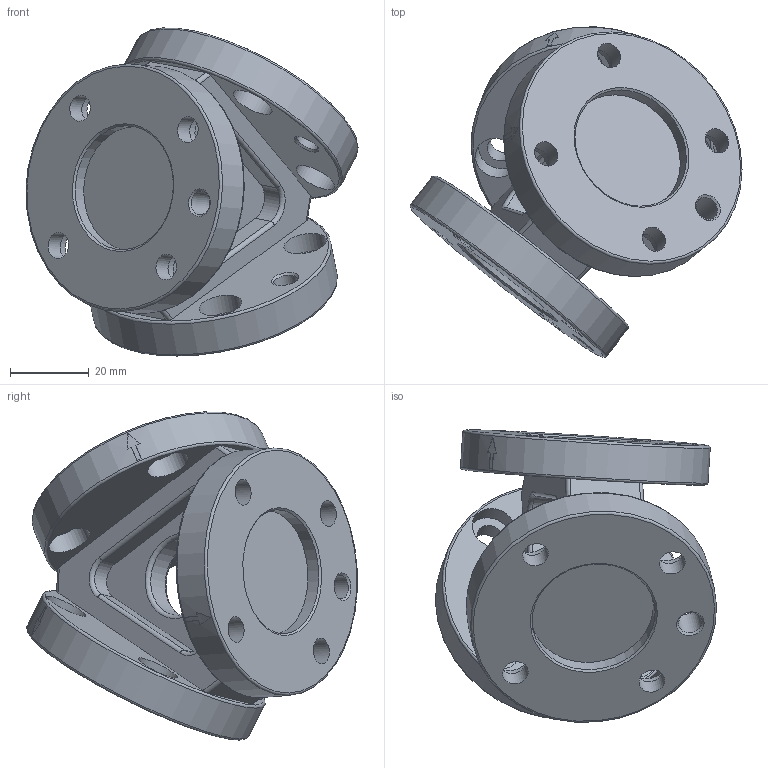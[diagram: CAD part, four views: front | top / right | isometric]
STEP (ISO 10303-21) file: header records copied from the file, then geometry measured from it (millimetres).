
FILE_DESCRIPTION(/* description */ (''),/* implementation_level */ '2;1');
FILE_NAME(/* name */ 'T:\CAD\Standard\Daten\3D-Datenbank\G-YA\G-YA063-S3.stp',/* time_stamp */ '2020-05-29T17:29:18+02:00',/* author */ ('hcanti'),/* organization */ (''),/* preprocessor_version */ 'ST-DEVELOPER v17',/* originating_system */ 'Autodesk Inventor 2018',/* authorisation */ '');
FILE_SCHEMA (('AUTOMOTIVE_DESIGN { 1 0 10303 214 3 1 1 }'));
Length unit declared in the file: millimetre
Products named in the file (4): Baugruppe21; XG-YA063-S3; G-YA063-S0-01 Y-Adapter 3-Eck; G-YA063-S0-03 Y-Adapter Flansch (Senkungen)
Assembly tree (5 placements, depth 3):
  Baugruppe21
    XG-YA063-S3
      G-YA063-S0-01 Y-Adapter 3-Eck
      G-YA063-S0-03 Y-Adapter Flansch (Senkungen)  x3
Bounding box: 84.32 x 83.93 x 83.33 mm (x, y, z)
Volume: 101608.2 mm3; surface area: 37426.7 mm2
Topology: 4 solids, 4 shells, 136 faces, 330 edges, 222 vertices
Faces by surface type: plane 58, cylinder 55, torus 14, cone 9
Full cylindrical faces by diameter (mm): 6.02 x3, 6.6 x12, 11 x12, 20 x1, 31.52 x3, 63 x3
Entity records: 2433 total; most frequent: DIRECTION 448, CARTESIAN_POINT 382, ORIENTED_EDGE 360, AXIS2_PLACEMENT_3D 184, EDGE_CURVE 180, VERTEX_POINT 118, EDGE_LOOP 94, CIRCLE 84
